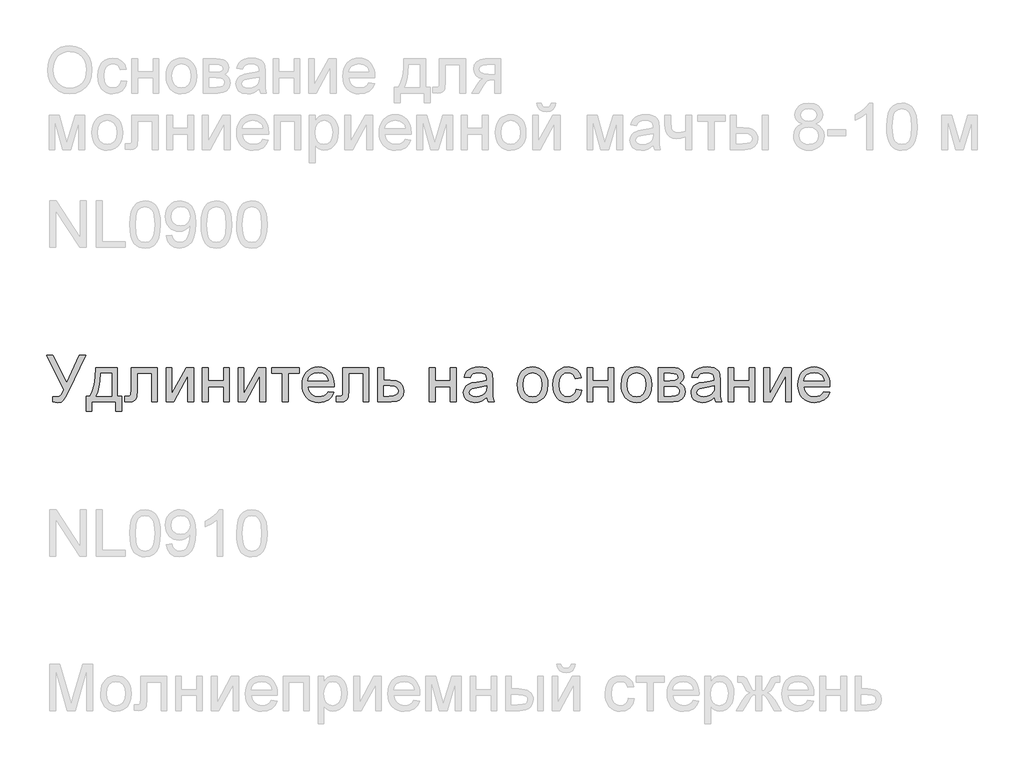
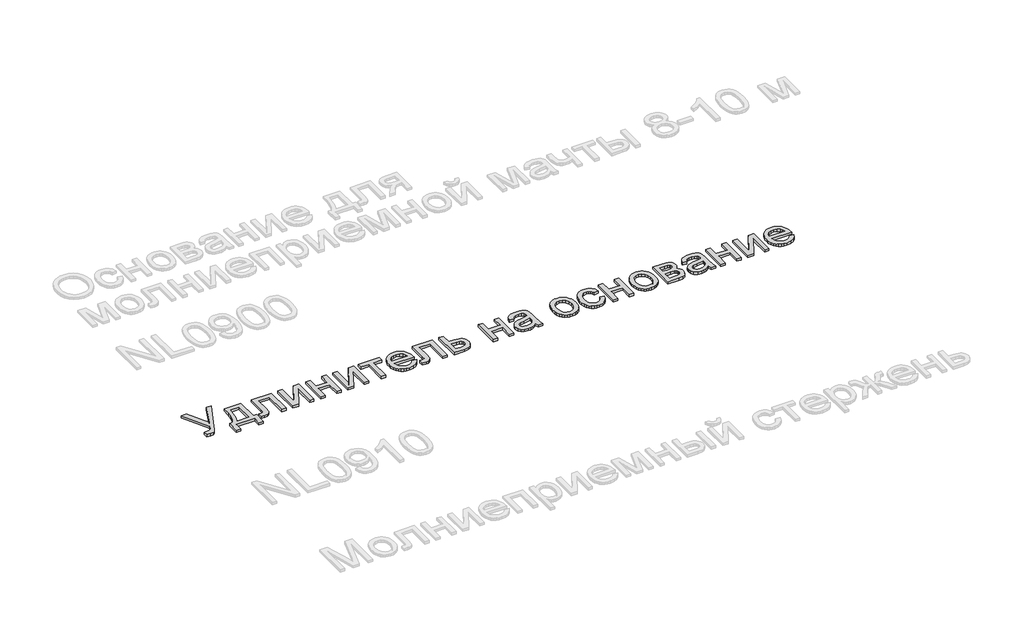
# One storey, part 53 of 124: 1 proxy.
"""IFC4 building model written with IfcOpenShell, lengths in millimetres."""

from ifc_helpers import new_model, si_unit, origin, origin_with_axes, place, context, project, spatial, polyline, outline, extrude, element, save

model = new_model("IFC4")

# Units and contexts
model_context = context("Model", 3, world=origin())
ifc_project = project(units=[si_unit("LENGTHUNIT", "METRE", prefix="MILLI")], contexts=[model_context])

# Site, building, storey
site = spatial("IfcSite", under=ifc_project)
building = spatial("IfcBuilding", under=site)
storey = spatial("IfcBuildingStorey", under=building, Name="Этаж 01", Elevation=0.0)

# Proxy
placement = place(None, origin())
element("IfcBuildingElementProxy", 1, Name="300", ObjectType="300", at=placement, inside=storey, context=model_context, shape_type="SweptSolid", body=[
    extrude(outline(polyline([(1278.6320648, -61773.1294316), (1320.349883, -61773.1294316), (1410.4809718, -61951.6257756), (1491.5621636, -61773.1294316), (1532.9120998, -61773.1294316), (1418.5007993, -62007.9117209), (1401.2287397, -62044.3688266), (1387.3779825, -62065.5956177), (1372.6075204, -62075.8043431), (1352.5763458, -62079.2072515), (1318.6576258, -62074.498362), (1318.6576258, -62041.5361352), (1348.3089147, -62041.5361352), (1360.173109, -62039.4392079), (1370.308258, -62033.1484257), (1380.0387367, -62019.4080332), (1390.6889205, -61994.9622746), (1278.6320648, -61773.1294316)])), origin_with_axes(), (0.0, 0.0, 1.0), 20.0),
    extrude(outline(polyline([(1596.4821086, -61853.1805537), (1737.7487948, -61853.1805537), (1737.7487948, -62036.8272457), (1766.002132, -62036.8272457), (1766.002132, -62135.713926), (1728.3310157, -62135.713926), (1728.3310157, -62074.498362), (1572.9376609, -62074.498362), (1572.9376609, -62135.713926), (1535.2665446, -62135.713926), (1535.2665446, -62036.8272457), (1558.8109923, -62036.8272457), (1575.9267021, -62005.897567), (1587.9104581, -61964.979892), (1594.7622603, -61914.074221), (1596.4821086, -61853.1805537)]), holes=[polyline([(1629.4443354, -61890.85167), (1626.3541266, -61936.9748752), (1620.6151675, -61976.6785395), (1612.227458, -62009.962663), (1601.1909981, -62036.8272457), (1700.0776784, -62036.8272457), (1700.0776784, -61890.85167), (1629.4443354, -61890.85167)])]), origin_with_axes(), (0.0, 0.0, 1.0), 20.0),
    extrude(outline(polyline([(1827.217696, -61853.1805537), (1996.7377194, -61853.1805537), (1996.7377194, -62074.2776328), (1959.0666031, -62074.2776328), (1959.0666031, -61890.85167), (1864.8888123, -61890.85167), (1864.8888123, -61996.4338026), (1862.3504265, -62045.1413788), (1857.5955517, -62056.1686416), (1848.4076989, -62065.7059823), (1834.4649713, -62072.3002671), (1815.4454721, -62074.498362), (1784.8376901, -62072.5853756), (1784.8376901, -62036.8272457), (1801.6866855, -62036.8272457), (1818.7196219, -62034.5095891), (1825.5254388, -62027.1519492), (1827.217696, -61994.3000871), (1827.217696, -61853.1805537)])), origin_with_axes(), (0.0, 0.0, 1.0), 20.0),
    extrude(outline(polyline([(2053.2443938, -61853.1805537), (2090.9155101, -61853.1805537), (2090.9155101, -62021.9648131), (2183.4746201, -61853.1805537), (2232.1821963, -61853.1805537), (2232.1821963, -62074.498362), (2194.51108, -62074.498362), (2194.51108, -61906.7441722), (2102.5405812, -62074.498362), (2053.2443938, -62074.498362), (2053.2443938, -61853.1805537)])), origin_with_axes(), (0.0, 0.0, 1.0), 20.0),
    extrude(outline(polyline([(2288.6888707, -61853.1805537), (2326.359987, -61853.1805537), (2326.359987, -61937.9405654), (2425.2466673, -61937.9405654), (2425.2466673, -61853.1805537), (2462.9177836, -61853.1805537), (2462.9177836, -62074.498362), (2425.2466673, -62074.498362), (2425.2466673, -61975.6116817), (2326.359987, -61975.6116817), (2326.359987, -62074.498362), (2288.6888707, -62074.498362), (2288.6888707, -61853.1805537)])), origin_with_axes(), (0.0, 0.0, 1.0), 20.0),
    extrude(outline(polyline([(2519.4244581, -61853.1805537), (2557.0955744, -61853.1805537), (2557.0955744, -62021.9648131), (2649.6546844, -61853.1805537), (2698.3622606, -61853.1805537), (2698.3622606, -62074.498362), (2660.6911443, -62074.498362), (2660.6911443, -61906.7441722), (2568.7206455, -62074.498362), (2519.4244581, -62074.498362), (2519.4244581, -61853.1805537)])), origin_with_axes(), (0.0, 0.0, 1.0), 20.0),
    extrude(outline(polyline([(2736.0333769, -61853.1805537), (2914.9711793, -61853.1805537), (2914.9711793, -61890.85167), (2844.3378362, -61890.85167), (2844.3378362, -62074.498362), (2806.6667199, -62074.498362), (2806.6667199, -61890.85167), (2736.0333769, -61890.85167), (2736.0333769, -61853.1805537)])), origin_with_axes(), (0.0, 0.0, 1.0), 20.0),
    extrude(outline(polyline([(3102.8853025, -62008.5739085), (3139.8206548, -62013.282798), (3126.5125236, -62041.1130709), (3105.2765354, -62061.9167978), (3076.5909368, -62074.8846381), (3040.9339745, -62079.2072515), (3017.5596722, -62077.3425497), (2996.7329527, -62071.7484441), (2978.4538161, -62062.4249348), (2962.7222623, -62049.3720217), (2950.0717202, -62032.9529884), (2941.0356187, -62013.5311184), (2935.6139578, -61991.1064115), (2933.8067375, -61965.6788678), (2935.6323519, -61939.3891007), (2941.1091951, -61916.2171336), (2950.2372671, -61896.1629663), (2963.0165679, -61879.226599), (2978.706735, -61865.771315), (2996.5674058, -61856.1603979), (3016.5985805, -61850.3938476), (3038.8002589, -61848.4716642), (3060.2868667, -61850.3892491), (3079.7179338, -61856.1420038), (3097.0934603, -61865.7299283), (3112.4134461, -61879.1530226), (3124.9191347, -61896.0526017), (3133.8517694, -61916.0699808), (3139.2113502, -61939.2051598), (3140.9978772, -61965.4581386), (3140.777148, -61975.6116817), (2971.4778538, -61975.6116817), (2977.9985621, -62003.8098366), (2993.1461033, -62024.5399871), (3015.0074909, -62037.2870982), (3041.6697385, -62041.5361352), (3061.7193072, -62039.5679666), (3078.6050908, -62033.6634605), (3092.3270892, -62023.4547352), (3102.8853025, -62008.5739085)]), holes=[polyline([(2971.4778538, -61937.9405654), (3103.3267608, -61937.9405654), (3098.2315952, -61918.0381495), (3088.243599, -61903.8011162), (3066.2810439, -61890.5573644), (3038.6531061, -61886.1427805), (3013.2600514, -61889.6652506), (2992.2631865, -61900.2326609), (2977.6674683, -61916.7045772), (2971.4778538, -61937.9405654)])]), origin_with_axes(), (0.0, 0.0, 1.0), 20.0),
    extrude(outline(polyline([(3197.5045516, -61853.1805537), (3367.024575, -61853.1805537), (3367.024575, -62074.2776328), (3329.3534587, -62074.2776328), (3329.3534587, -61890.85167), (3235.1756679, -61890.85167), (3235.1756679, -61996.4338026), (3232.6372822, -62045.1413788), (3227.8824074, -62056.1686416), (3218.6945545, -62065.7059823), (3204.7518269, -62072.3002671), (3185.7323278, -62074.498362), (3155.1245458, -62072.5853756), (3155.1245458, -62036.8272457), (3171.9735411, -62036.8272457), (3189.0064775, -62034.5095891), (3195.8122944, -62027.1519492), (3197.5045516, -61994.3000871), (3197.5045516, -61853.1805537)])), origin_with_axes(), (0.0, 0.0, 1.0), 20.0),
    extrude(outline(polyline([(3423.5312495, -61853.1805537), (3461.2023658, -61853.1805537), (3461.2023658, -61933.2316759), (3504.6124412, -61933.2316759), (3542.2467693, -61937.9497624), (3557.3943104, -61943.8473707), (3570.0954363, -61952.1040222), (3580.1386148, -61962.4346085), (3587.3123137, -61974.554021), (3593.0512728, -62004.1593245), (3588.1676393, -62031.1158777), (3573.5167389, -62053.8601821), (3562.2848417, -62062.8893858), (3548.1236842, -62069.338817), (3511.0135879, -62074.498362), (3423.5312495, -62074.498362), (3423.5312495, -61853.1805537)]), holes=[polyline([(3461.2023658, -62036.8272457), (3496.3718845, -62036.8272457), (3523.6595315, -62034.84988), (3541.8053109, -62028.9177828), (3551.9864451, -62018.7918309), (3555.3801565, -62004.2329009), (3552.8693619, -61991.9272482), (3545.3369781, -61981.0563352), (3529.1961555, -61973.4411779), (3500.8600448, -61970.9027922), (3461.2023658, -61970.9027922), (3461.2023658, -62036.8272457)])]), origin_with_axes(), (0.0, 0.0, 1.0), 20.0),
    extrude(outline(polyline([(3757.8624067, -61853.1805537), (3795.533523, -61853.1805537), (3795.533523, -61937.9405654), (3894.4202033, -61937.9405654), (3894.4202033, -61853.1805537), (3932.0913196, -61853.1805537), (3932.0913196, -62074.498362), (3894.4202033, -62074.498362), (3894.4202033, -61975.6116817), (3795.533523, -61975.6116817), (3795.533523, -62074.498362), (3757.8624067, -62074.498362), (3757.8624067, -61853.1805537)])), origin_with_axes(), (0.0, 0.0, 1.0), 20.0),
    extrude(outline(polyline([(4129.8646802, -62046.2450248), (4111.8660536, -62061.6776745), (4093.3339981, -62071.7760352), (4073.8454494, -62077.3494475), (4052.9773432, -62079.2072515), (4021.4958415, -62074.7374853), (3998.2732905, -62061.3281866), (3983.9534839, -62040.9659181), (3979.180215, -62015.6372428), (3980.9828367, -62000.0206521), (3986.3907021, -61985.8388012), (3994.7324263, -61973.6986953), (4005.3366248, -61964.2073398), (4031.7137639, -61951.8465048), (4064.3081086, -61946.1811221), (4102.8253535, -61940.2214338), (4129.643951, -61933.2316759), (4129.8646802, -61924.8439664), (4127.2711121, -61908.0317592), (4119.4904079, -61897.0320875), (4102.0895896, -61888.8651072), (4077.8461661, -61886.1427805), (4055.4053644, -61887.9545993), (4039.7335914, -61893.3900558), (4029.0466194, -61903.4424313), (4021.5602208, -61919.1050072), (3983.8891045, -61914.3961177), (3990.428207, -61893.794726), (4000.1862769, -61877.6079182), (4014.0738222, -61865.228689), (4033.0013509, -61856.0500333), (4056.1503254, -61850.3662564), (4082.7022084, -61848.4716642), (4108.1688395, -61850.1455272), (4128.356364, -61855.1671165), (4143.5774816, -61862.7178944), (4154.1448919, -61871.9793237), (4161.1530439, -61883.4296508), (4165.6963865, -61897.5471223), (4167.5357965, -61930.5093491), (4167.5357965, -61977.3775153), (4169.4487829, -62042.8237222), (4176.9535756, -62074.498362), (4139.2824593, -62074.498362), (4129.8646802, -62046.2450248)]), holes=[polyline([(4129.8646802, -61970.9027922), (4069.0905746, -61982.4542868), (4036.6801708, -61988.5611279), (4022.0016792, -61998.4939418), (4016.8513313, -62012.9884924), (4019.6564315, -62024.1904992), (4028.0717321, -62033.3691549), (4041.9132922, -62039.4943902), (4060.9971707, -62041.5361352), (4081.2306804, -62039.282858), (4099.1097454, -62032.5230264), (4113.604296, -62022.5626213), (4123.6842627, -62010.707624), (4128.1540289, -61998.4939418), (4129.643951, -61981.57137), (4129.8646802, -61970.9027922)])]), origin_with_axes(), (0.0, 0.0, 1.0), 20.0),
    extrude(outline(polyline([(4327.6380408, -61963.8394579), (4329.6751873, -61935.1768519), (4335.786627, -61910.4781745), (4345.9723597, -61889.7434255), (4360.2323856, -61872.972605), (4374.5889804, -61862.2534434), (4390.4354974, -61854.5968994), (4407.7719364, -61850.002973), (4426.5982975, -61848.4716642), (4447.381331, -61850.336366), (4466.1732031, -61855.9304716), (4482.973914, -61865.2539809), (4497.7834636, -61878.306894), (4509.8706864, -61894.6477523), (4518.5044169, -61913.8350977), (4523.6846553, -61935.8689299), (4525.4114014, -61960.7492491), (4522.3579808, -61998.8066415), (4513.1977192, -62027.7773486), (4498.1973308, -62049.4731893), (4477.6235302, -62065.7059823), (4453.1869687, -62075.8319342), (4426.5982975, -62079.2072515), (4405.5117614, -62077.3494475), (4386.5451453, -62071.7760352), (4369.6984492, -62062.4870149), (4354.971673, -62049.4823863), (4343.0132089, -62032.9828788), (4334.4714489, -62013.2092216), (4329.3463928, -61990.1614146), (4327.6380408, -61963.8394579)]), holes=[polyline([(4365.3091571, -61963.7658815), (4369.6685587, -61997.8593454), (4382.7467637, -62022.1487541), (4402.4284504, -62036.6892899), (4426.5982975, -62041.5361352), (4450.65778, -62036.6616988), (4470.3026785, -62022.0383895), (4483.3808835, -61997.427084), (4487.7402851, -61962.5886591), (4483.3532923, -61929.4884766), (4470.1923139, -61905.5301616), (4450.5198242, -61890.9896258), (4426.5982975, -61886.1427805), (4402.4284504, -61890.9712317), (4382.7467637, -61905.4565852), (4369.6685587, -61929.6908117), (4365.3091571, -61963.7658815)])]), origin_with_axes(), (0.0, 0.0, 1.0), 20.0),
    extrude(outline(polyline([(4709.0580934, -61994.4472399), (4746.7292097, -61999.1561294), (4736.2261787, -62032.6609821), (4716.4893097, -62057.9804604), (4689.3764067, -62073.9005538), (4656.7452737, -62079.2072515), (4635.6173508, -62077.3563453), (4616.6737274, -62071.8036264), (4599.9144032, -62062.5490949), (4585.3393784, -62049.5927509), (4573.5418627, -62033.1783162), (4565.1150657, -62013.5495125), (4560.0589876, -61990.7063398), (4558.3736282, -61964.6487982), (4561.2523048, -61931.1255514), (4569.8883346, -61902.0720709), (4584.4196734, -61878.6103966), (4604.984277, -61861.8625688), (4629.5863854, -61851.8193903), (4656.2302389, -61848.4716642), (4688.0612285, -61853.0701891), (4713.5094655, -61866.8657639), (4731.7656095, -61889.1226246), (4742.0203202, -61919.1050072), (4704.3492039, -61923.8138968), (4697.5157958, -61907.3787686), (4686.8748091, -61895.5973477), (4673.0148549, -61888.5064223), (4656.5245445, -61886.1427805), (4632.1799535, -61890.7964877), (4612.8569517, -61904.7576094), (4600.2477963, -61928.7803037), (4596.0447445, -61963.6187287), (4600.1558258, -61998.9262031), (4612.4890697, -62023.0316709), (4631.4625836, -62036.9100191), (4655.4944749, -62041.5361352), (4675.0014177, -62038.6482616), (4690.9950874, -62029.9846406), (4702.6293555, -62015.3245431), (4709.0580934, -61994.4472399)])), origin_with_axes(), (0.0, 0.0, 1.0), 20.0),
    extrude(outline(polyline([(4779.6914365, -61853.1805537), (4817.3625528, -61853.1805537), (4817.3625528, -61937.9405654), (4916.2492331, -61937.9405654), (4916.2492331, -61853.1805537), (4953.9203494, -61853.1805537), (4953.9203494, -62074.498362), (4916.2492331, -62074.498362), (4916.2492331, -61975.6116817), (4817.3625528, -61975.6116817), (4817.3625528, -62074.498362), (4779.6914365, -62074.498362), (4779.6914365, -61853.1805537)])), origin_with_axes(), (0.0, 0.0, 1.0), 20.0),
    extrude(outline(polyline([(5001.0092448, -61963.8394579), (5003.0463913, -61935.1768519), (5009.157831, -61910.4781745), (5019.3435637, -61889.7434255), (5033.6035895, -61872.972605), (5047.9601844, -61862.2534434), (5063.8067013, -61854.5968994), (5081.1431404, -61850.002973), (5099.9695015, -61848.4716642), (5120.7525349, -61850.336366), (5139.5444071, -61855.9304716), (5156.345118, -61865.2539809), (5171.1546675, -61878.306894), (5183.2418903, -61894.6477523), (5191.8756209, -61913.8350977), (5197.0558593, -61935.8689299), (5198.7826054, -61960.7492491), (5195.7291848, -61998.8066415), (5186.5689231, -62027.7773486), (5171.5685348, -62049.4731893), (5150.9947342, -62065.7059823), (5126.5581727, -62075.8319342), (5099.9695015, -62079.2072515), (5078.8829654, -62077.3494475), (5059.9163492, -62071.7760352), (5043.0696531, -62062.4870149), (5028.342877, -62049.4823863), (5016.3844129, -62032.9828788), (5007.8426528, -62013.2092216), (5002.7175968, -61990.1614146), (5001.0092448, -61963.8394579)]), holes=[polyline([(5038.6803611, -61963.7658815), (5043.0397627, -61997.8593454), (5056.1179676, -62022.1487541), (5075.7996544, -62036.6892899), (5099.9695015, -62041.5361352), (5124.028984, -62036.6616988), (5143.6738825, -62022.0383895), (5156.7520874, -61997.427084), (5161.1114891, -61962.5886591), (5156.7244963, -61929.4884766), (5143.5635179, -61905.5301616), (5123.8910282, -61890.9896258), (5099.9695015, -61886.1427805), (5075.7996544, -61890.9712317), (5056.1179676, -61905.4565852), (5043.0397627, -61929.6908117), (5038.6803611, -61963.7658815)])]), origin_with_axes(), (0.0, 0.0, 1.0), 20.0),
    extrude(outline(polyline([(5241.1626112, -61853.1805537), (5324.1567893, -61853.1805537), (5350.837431, -61854.4405495), (5369.6637921, -61858.220537), (5383.5145493, -61865.3574477), (5395.268379, -61876.6882132), (5403.2974035, -61891.4494783), (5405.9737451, -61908.8778878), (5404.3550643, -61922.9217829), (5399.4990219, -61935.0342976), (5391.387224, -61945.2706141), (5380.0012762, -61953.6859148), (5393.9440038, -61961.5126042), (5405.3115575, -61974.1033655), (5412.8715325, -61990.4649173), (5415.3915241, -62009.6039781), (5409.0087715, -62038.3171678), (5393.8336392, -62058.5322834), (5369.8109449, -62070.5068424), (5336.8855064, -62074.498362), (5241.1626112, -62074.498362), (5241.1626112, -61853.1805537)]), holes=[polyline([(5278.8337275, -61937.9405654), (5316.0633854, -61937.9405654), (5346.781532, -61936.027579), (5361.717541, -61928.3756335), (5366.6563568, -61922.0480632), (5368.3026288, -61914.5432705), (5365.4147551, -61903.3044755), (5356.7511341, -61896.0755943), (5341.0977552, -61892.1576511), (5317.2406078, -61890.85167), (5278.8337275, -61890.85167), (5278.8337275, -61937.9405654)]), polyline([(5278.8337275, -62036.8272457), (5325.0397061, -62036.8272457), (5350.2212287, -62035.1257915), (5366.0217604, -62030.0214288), (5374.5014404, -62020.7416055), (5377.7204078, -62006.5137693), (5376.1109241, -61997.0867932), (5371.2824729, -61988.3771869), (5363.8696507, -61981.562173), (5354.5070539, -61977.8189737), (5321.3608862, -61975.6116817), (5278.8337275, -61975.6116817), (5278.8337275, -62036.8272457)])]), origin_with_axes(), (0.0, 0.0, 1.0), 20.0),
    extrude(outline(polyline([(5603.7471057, -62046.2450248), (5585.7484791, -62061.6776745), (5567.2164235, -62071.7760352), (5547.7278749, -62077.3494475), (5526.8597687, -62079.2072515), (5495.3782669, -62074.7374853), (5472.155716, -62061.3281866), (5457.8359093, -62040.9659181), (5453.0626404, -62015.6372428), (5454.8652622, -62000.0206521), (5460.2731275, -61985.8388012), (5468.6148518, -61973.6986953), (5479.2190503, -61964.2073398), (5505.5961894, -61951.8465048), (5538.1905341, -61946.1811221), (5576.707779, -61940.2214338), (5603.5263765, -61933.2316759), (5603.7471057, -61924.8439664), (5601.1535376, -61908.0317592), (5593.3728334, -61897.0320875), (5575.972015, -61888.8651072), (5551.7285915, -61886.1427805), (5529.2877898, -61887.9545993), (5513.6160168, -61893.3900558), (5502.9290449, -61903.4424313), (5495.4426463, -61919.1050072), (5457.77153, -61914.3961177), (5464.3106324, -61893.794726), (5474.0687024, -61877.6079182), (5487.9562477, -61865.228689), (5506.8837763, -61856.0500333), (5530.0327509, -61850.3662564), (5556.5846339, -61848.4716642), (5582.051265, -61850.1455272), (5602.2387895, -61855.1671165), (5617.459907, -61862.7178944), (5628.0273173, -61871.9793237), (5635.0354694, -61883.4296508), (5639.578812, -61897.5471223), (5641.418222, -61930.5093491), (5641.418222, -61977.3775153), (5643.3312083, -62042.8237222), (5650.836001, -62074.498362), (5613.1648847, -62074.498362), (5603.7471057, -62046.2450248)]), holes=[polyline([(5603.7471057, -61970.9027922), (5542.9730001, -61982.4542868), (5510.5625963, -61988.5611279), (5495.8841047, -61998.4939418), (5490.7337567, -62012.9884924), (5493.538857, -62024.1904992), (5501.9541576, -62033.3691549), (5515.7957177, -62039.4943902), (5534.8795962, -62041.5361352), (5555.1131059, -62039.282858), (5572.9921709, -62032.5230264), (5587.4867215, -62022.5626213), (5597.5666881, -62010.707624), (5602.0364544, -61998.4939418), (5603.5263765, -61981.57137), (5603.7471057, -61970.9027922)])]), origin_with_axes(), (0.0, 0.0, 1.0), 20.0),
    extrude(outline(polyline([(5693.2160069, -61853.1805537), (5730.8871232, -61853.1805537), (5730.8871232, -61937.9405654), (5829.7738035, -61937.9405654), (5829.7738035, -61853.1805537), (5867.4449198, -61853.1805537), (5867.4449198, -62074.498362), (5829.7738035, -62074.498362), (5829.7738035, -61975.6116817), (5730.8871232, -61975.6116817), (5730.8871232, -62074.498362), (5693.2160069, -62074.498362), (5693.2160069, -61853.1805537)])), origin_with_axes(), (0.0, 0.0, 1.0), 20.0),
    extrude(outline(polyline([(5923.9515943, -61853.1805537), (5961.6227106, -61853.1805537), (5961.6227106, -62021.9648131), (6054.1818206, -61853.1805537), (6102.8893967, -61853.1805537), (6102.8893967, -62074.498362), (6065.2182804, -62074.498362), (6065.2182804, -61906.7441722), (5973.2477816, -62074.498362), (5923.9515943, -62074.498362), (5923.9515943, -61853.1805537)])), origin_with_axes(), (0.0, 0.0, 1.0), 20.0),
    extrude(outline(polyline([(6314.3479675, -62008.5739085), (6351.2833199, -62013.282798), (6337.9751887, -62041.1130709), (6316.7392005, -62061.9167978), (6288.0536019, -62074.8846381), (6252.3966396, -62079.2072515), (6229.0223373, -62077.3425497), (6208.1956178, -62071.7484441), (6189.9164812, -62062.4249348), (6174.1849274, -62049.3720217), (6161.5343853, -62032.9529884), (6152.4982838, -62013.5311184), (6147.0766229, -61991.1064115), (6145.2694026, -61965.6788678), (6147.095017, -61939.3891007), (6152.5718602, -61916.2171336), (6161.6999322, -61896.1629663), (6174.479233, -61879.226599), (6190.1694001, -61865.771315), (6208.0300709, -61856.1603979), (6228.0612456, -61850.3938476), (6250.262924, -61848.4716642), (6271.7495318, -61850.3892491), (6291.1805989, -61856.1420038), (6308.5561254, -61865.7299283), (6323.8761112, -61879.1530226), (6336.3817998, -61896.0526017), (6345.3144345, -61916.0699808), (6350.6740153, -61939.2051598), (6352.4605422, -61965.4581386), (6352.2398131, -61975.6116817), (6182.9405189, -61975.6116817), (6189.4612272, -62003.8098366), (6204.6087684, -62024.5399871), (6226.470156, -62037.2870982), (6253.1324036, -62041.5361352), (6273.1819723, -62039.5679666), (6290.0677559, -62033.6634605), (6303.7897543, -62023.4547352), (6314.3479675, -62008.5739085)]), holes=[polyline([(6182.9405189, -61937.9405654), (6314.7894259, -61937.9405654), (6309.6942603, -61918.0381495), (6299.7062641, -61903.8011162), (6277.743709, -61890.5573644), (6250.1157712, -61886.1427805), (6224.7227165, -61889.6652506), (6203.7258516, -61900.2326609), (6189.1301334, -61916.7045772), (6182.9405189, -61937.9405654)])]), origin_with_axes(), (0.0, 0.0, 1.0), 20.0),
])

save(model, "model.ifc")
